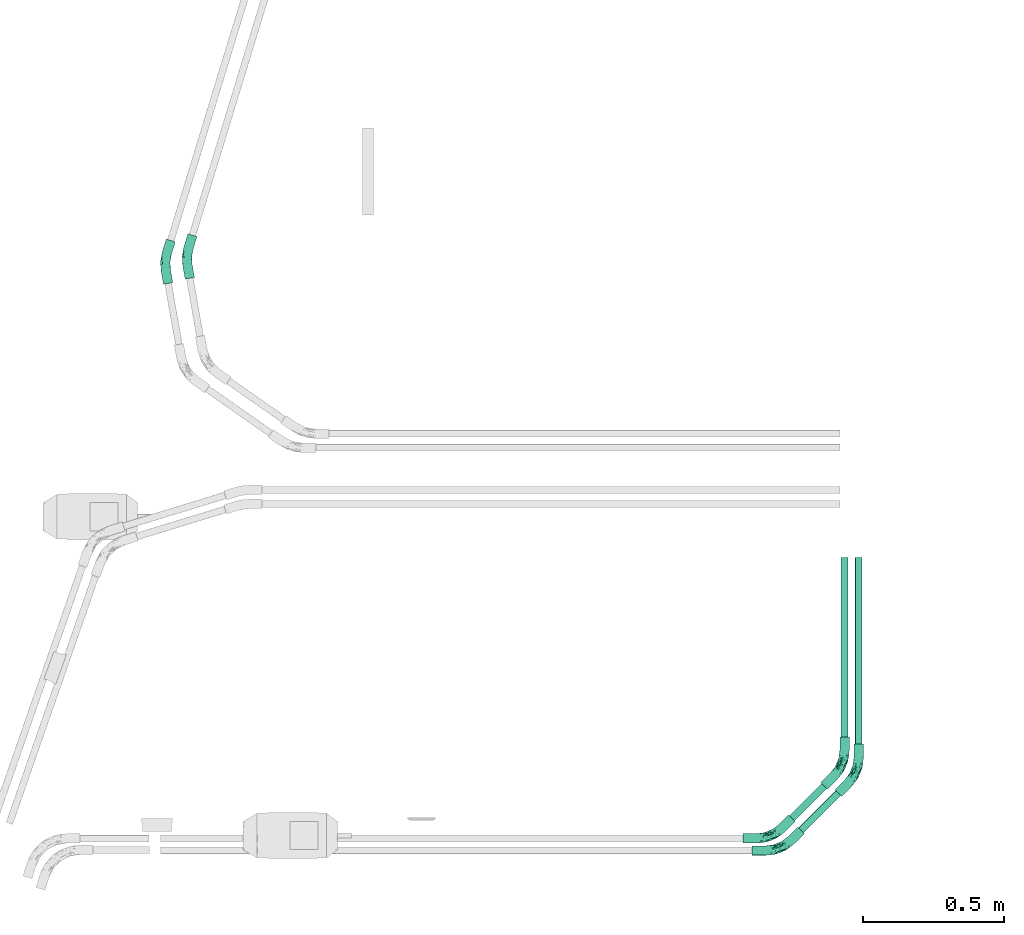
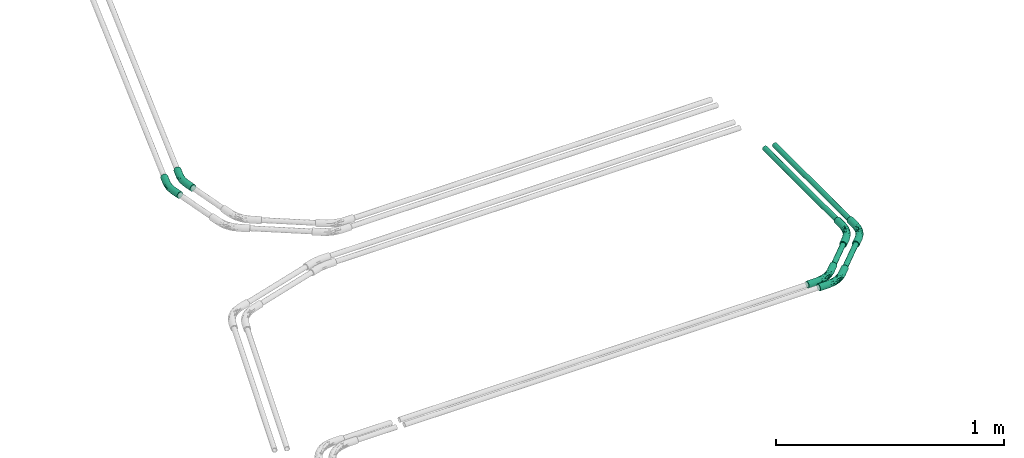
# One storey, part 5 of 22: 6 flow fittings, 4 flow segments.
"""IFC2X3 building model written with IfcOpenShell, lengths in millimetres."""

from ifc_helpers import new_model, entity, si_unit, converted_unit, derived_unit, direction, frame, origin_with_axes, origin_2d_with_axis, place, context, subcontext, project, spatial, hollow_circle, extrude, open_shell, surface_model, source, transform, mapped, type_object, element, save


model = new_model("IFC2X3")

# Units and contexts
model_context = context("Model", 3, precision=0.01, world=frame((0.0, 4.29681676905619e-09, 0.0)), true_north=direction((4.01073788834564e-13, 1.0)))
plan_context = context("Plan", 3, precision=0.01, world=frame((0.0, 4.29681676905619e-09, 0.0)), true_north=direction((4.01073788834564e-13, 1.0)))
body_context = subcontext(model_context, "Body", "Model", "MODEL_VIEW")
ifc_project = project(units=[converted_unit("PLANEANGLEUNIT", "DEGREE", entity("IfcPositiveLengthMeasure", 0.0174532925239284), si_unit("PLANEANGLEUNIT", "RADIAN"), dimensions=[0, 0, 0, 0, 0, 0, 0]), si_unit("AREAUNIT", "SQUARE_METRE"), si_unit("LENGTHUNIT", "METRE", prefix="MILLI"), si_unit("MASSUNIT", "GRAM", prefix="KILO"), si_unit("POWERUNIT", "WATT"), si_unit("PRESSUREUNIT", "PASCAL", prefix="KILO"), si_unit("FORCEUNIT", "NEWTON", prefix="KILO"), si_unit("ELECTRICVOLTAGEUNIT", "VOLT"), si_unit("ELECTRICCURRENTUNIT", "AMPERE"), si_unit("THERMODYNAMICTEMPERATUREUNIT", "DEGREE_CELSIUS"), si_unit("TIMEUNIT", "SECOND"), si_unit("VOLUMEUNIT", "CUBIC_METRE"), derived_unit("LINEARVELOCITYUNIT", [(si_unit("LENGTHUNIT", "METRE"), 1), (si_unit("TIMEUNIT", "SECOND"), -1)]), derived_unit("VOLUMETRICFLOWRATEUNIT", [(si_unit("VOLUMEUNIT", "CUBIC_METRE"), 1), (si_unit("TIMEUNIT", "SECOND"), -1)]), derived_unit("THERMALTRANSMITTANCEUNIT", [(si_unit("POWERUNIT", "WATT"), 1), (si_unit("THERMODYNAMICTEMPERATUREUNIT", "KELVIN"), -1), (si_unit("AREAUNIT", "SQUARE_METRE"), -1)]), derived_unit("SOUNDPRESSUREUNIT", [(si_unit("PRESSUREUNIT", "PASCAL"), 1)])], contexts=[model_context, plan_context])

# Site, building, storey
site_placement = place(None, frame((0.0, -4.29681676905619e-09, 0.0), z_axis=(0.0, 0.0, 1.0), x_axis=(1.0, 0.0, 0.0)))
site = spatial("IfcSite", under=ifc_project, at=site_placement, Name="ENGM", CompositionType="ELEMENT")
building_placement = place(site_placement, frame((0.0, 4.29681676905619e-09, 0.0), z_axis=(0.0, 0.0, 1.0), x_axis=(1.0, 0.0, 0.0)))
building = spatial("IfcBuilding", under=site, at=building_placement, Name="TI", CompositionType="ELEMENT")
storey_placement = place(building_placement, frame((0.0, 0.0, 210900.0), z_axis=(0.0, 0.0, 1.0), x_axis=(1.0, 0.0, 0.0)))
storey = spatial("IfcBuildingStorey", under=building, at=storey_placement, Name="Nivå F", CompositionType="ELEMENT", Elevation=210900.0)

# Flow fittings
cable_carrier_fitting_type = type_object("IfcCableCarrierFittingType", Name="Trekkerør, glatt bend", PredefinedType="BEND")
shared_shape_1 = source(origin_with_axes(), body_context, "Body", "SurfaceModel", [
    surface_model("IfcShellBasedSurfaceModel", [(-101.90646, 8.46055, -14.6541), (-101.90646, 4.3795, -16.34452), (-101.90646, 0.0, -16.92109), (-101.90646, 14.6541, -8.46055), (-101.90646, -8.46055, -14.6541), (-101.90646, 11.96502, -11.96502), (-101.90646, -16.92109, 0.0), (-101.90646, -16.34452, 4.3795), (-101.90646, -11.96502, -11.96502), (-101.90646, -14.6541, -8.46055), (-101.90646, -4.3795, -16.34452), (-101.90646, -16.34452, -4.3795), (-101.90646, 16.92109, 0.0), (-101.90646, 16.34452, -4.3795), (-101.90646, 16.34452, 4.3795), (-101.90646, 14.6541, 8.46055), (-101.90646, 8.46055, 14.6541), (-101.90646, 11.96502, 11.96502), (-101.90646, 0.0, 16.92109), (-101.90646, 4.3795, 16.34452), (-101.90646, -11.96502, 11.96502), (-101.90646, -8.46055, 14.6541), (-101.90646, -14.6541, 8.46055), (-101.90646, -4.3795, 16.34452), (-54.58849, -16.92109, 0.0), (-54.58849, -16.34452, 4.3795), (-54.58849, -14.6541, 8.46055), (-54.58849, -11.96502, 11.96502), (-54.58849, -8.46055, 14.6541), (-54.58849, -4.3795, 16.34452), (-54.58849, 0.0, 16.92109), (-54.58849, 4.3795, 16.34452), (-54.58849, 8.46055, 14.6541), (-54.58849, 11.96502, 11.96502), (-54.58849, 14.6541, 8.46055), (-54.58849, 16.34452, 4.3795), (-54.58849, 16.92109, 0.0), (-54.58849, 16.34452, -4.3795), (-54.58849, 14.6541, -8.46055), (-54.58849, 11.96502, -11.96502), (-54.58849, 8.46055, -14.6541), (-54.58849, 4.3795, -16.34452), (-54.58849, 0.0, -16.92109), (-54.58849, -4.3795, -16.34452), (-54.58849, -8.46055, -14.6541), (-54.58849, -11.96502, -11.96502), (-54.58849, -14.6541, -8.46055), (-54.58849, -16.34452, -4.3795), (10.9245, -1.31078, 3.47544), (-13.36235, -10.76027, 3.27049), (-16.09967, -11.85394, 0.0), (41.69667, 35.50312, 16.34452), (38.59989, 38.59989, 16.92109), (22.26214, 21.90343, 16.76352), (-19.66365, -2.12805, 15.57779), (-29.58477, -8.16493, 13.36262), (-20.60685, -9.47816, 10.19127), (-34.07223, 17.39409, 6.62821), (-10.25807, 24.76518, 5.65746), (-29.40446, 19.36118, 3.4046), (-3.22837, 7.79397, 16.74683), (-31.22977, -0.25365, 16.76352), (35.50312, 41.69667, 16.34452), (32.61738, 44.5824, 14.6541), (17.47707, 29.1678, 15.66764), (-16.62388, 19.5721, 10.43045), (-25.92736, 13.63005, 13.4985), (5.09993, 25.84703, 13.50914), (-21.17216, 6.44783, 16.79403), (19.76619, 3.00218, 0.0), (-6.56017, 15.83764, 15.71089), (-32.9829, 8.26659, 15.66764), (19.50033, 6.79523, 10.18462), (48.96191, 28.23788, 8.46055), (47.06044, 30.13935, 11.96502), (-0.14544, 0.35113, 13.28643), (-24.85868, 20.8351, 0.0), (44.5824, 32.61738, 14.6541), (26.69306, 15.14611, 13.36262), (8.9424, 34.00903, 7.47137), (8.93562, 35.31889, 4.60583), (25.73601, 8.11548, 6.36012), (-6.07752, -7.50254, 6.29064), (28.23788, 48.96191, 8.46055), (10.0687, 32.56851, 10.38353), (30.13935, 47.06044, 11.96502), (-30.89964, -14.04008, 5.64535), (16.01237, 12.75836, 15.5789), (12.05401, 20.50658, 16.79305), (50.15722, 27.04257, 4.3795), (50.56491, 26.63487, 0.0), (32.88314, 11.79305, 2.69799), (2.8451, 32.31038, 0.0), (26.63487, 50.56491, 0.0), (27.04257, 50.15722, 4.3795), (-32.9829, 8.26659, -15.66764), (16.55602, 18.09298, -16.75967), (38.59989, 38.59989, -16.92109), (41.69667, 35.50312, -16.34452), (30.13935, 47.06044, -11.96502), (32.61738, 44.5824, -14.6541), (8.69552, 27.97131, -13.4985), (-6.56017, 15.83764, -15.71089), (-21.88281, 14.67041, -13.50914), (-31.29267, 18.65579, -4.60583), (-30.37125, 17.72478, -7.47137), (-10.25807, 24.76517, -5.65746), (-1.59965, 3.86188, -15.54749), (17.63726, 9.2923, -13.33594), (-19.1381, -5.92521, -13.33619), (-2.08471, 25.59442, -10.43045), (-30.14906, 15.90977, -10.38353), (-24.73941, 5.56629, -16.79215), (10.41167, 19.53028, -16.79403), (-18.36618, -11.17146, -6.33871), (-28.92763, -11.20296, -10.21852), (-19.67101, 2.27248, -16.75686), (-22.81878, -13.17372, -3.2081), (17.47707, 29.1678, -15.66764), (-30.36783, -4.42984, -15.59506), (24.60567, 18.34093, -15.59506), (35.50312, 41.69667, -16.34452), (7.10167, 34.48251, -3.4046), (27.04257, 50.15722, -4.3795), (44.5824, 32.61738, -14.6541), (47.06044, 30.13935, -11.96502), (28.23788, 48.96191, -8.46055), (11.79322, 36.39219, -6.62821), (1.03493, -2.49855, -10.11808), (48.96191, 28.23788, -8.46055), (28.37661, 12.53324, -10.21852), (20.88626, 5.08744, -6.33871), (25.45054, 6.82009, -3.2081), (2.19574, -5.30098, -3.30061), (50.15722, 27.04257, -4.3795), (60.50143, 83.61607, -4.3795), (72.05875, 72.05875, -16.92109), (68.96197, 75.15552, -16.34452), (66.07624, 78.04126, -14.6541), (63.5982, 80.51929, -11.96502), (61.69674, 82.42076, -8.46055), (75.15552, 68.96197, -16.34452), (80.51929, 63.5982, -11.96502), (78.04126, 66.07624, -14.6541), (83.61607, 60.50143, -4.3795), (82.42076, 61.69674, -8.46055), (83.61607, 60.50143, 4.3795), (84.02377, 60.09373, 0.0), (75.15552, 68.96197, 16.34452), (60.50143, 83.61607, 4.3795), (61.69674, 82.42076, 8.46055), (66.07624, 78.04126, 14.6541), (72.05875, 72.05875, 16.92109), (63.5982, 80.51929, 11.96502), (68.96197, 75.15552, 16.34452), (80.51929, 63.5982, 11.96502), (82.42076, 61.69674, 8.46055), (78.04126, 66.07624, 14.6541), (60.09373, 84.02377, 0.0)], [open_shell([[[0, 1, 2]], [[3, 0, 2]], [[4, 3, 2]], [[5, 0, 3]], [[3, 6, 7]], [[8, 9, 4]], [[2, 10, 4]], [[9, 11, 4]], [[11, 3, 4]], [[3, 11, 6]], [[12, 13, 3]], [[12, 7, 14]], [[14, 7, 15]], [[16, 17, 18]], [[15, 18, 17]], [[18, 19, 16]], [[20, 21, 22]], [[15, 7, 22]], [[23, 18, 21]], [[15, 22, 21]], [[15, 21, 18]], [[3, 7, 12]], [[7, 24, 25]], [[26, 22, 25]], [[21, 27, 28]], [[26, 27, 20]], [[23, 28, 29]], [[24, 7, 6]], [[25, 22, 7]], [[26, 20, 22]], [[27, 21, 20]], [[23, 21, 28]], [[29, 18, 23]], [[29, 30, 18]], [[16, 31, 32]], [[33, 17, 32]], [[14, 34, 35]], [[33, 34, 15]], [[12, 35, 36]], [[31, 19, 30]], [[31, 16, 19]], [[30, 19, 18]], [[32, 17, 16]], [[33, 15, 17]], [[14, 15, 34]], [[35, 12, 14]], [[13, 36, 37]], [[38, 3, 37]], [[0, 39, 40]], [[38, 39, 5]], [[1, 40, 41]], [[36, 13, 12]], [[37, 3, 13]], [[38, 5, 3]], [[39, 0, 5]], [[1, 0, 40]], [[41, 2, 1]], [[41, 42, 2]], [[4, 43, 44]], [[45, 8, 44]], [[11, 46, 47]], [[45, 46, 9]], [[6, 47, 24]], [[43, 10, 42]], [[43, 4, 10]], [[42, 10, 2]], [[44, 8, 4]], [[45, 9, 8]], [[11, 9, 46]], [[47, 6, 11]], [[48, 49, 50]], [[49, 24, 50]], [[51, 52, 53]], [[29, 28, 54]], [[27, 55, 28]], [[56, 27, 26]], [[57, 58, 59]], [[60, 61, 54]], [[61, 30, 29]], [[62, 63, 64]], [[65, 66, 67]], [[31, 30, 68]], [[48, 50, 69]], [[67, 66, 70]], [[33, 32, 66]], [[65, 58, 57]], [[71, 32, 31]], [[72, 73, 74]], [[56, 72, 75]], [[59, 76, 36]], [[74, 77, 78]], [[36, 35, 59]], [[58, 79, 80]], [[81, 72, 82]], [[70, 71, 68]], [[83, 84, 85]], [[25, 49, 86]], [[34, 33, 65]], [[87, 77, 51]], [[54, 87, 60]], [[72, 56, 82]], [[88, 70, 68]], [[72, 81, 73]], [[73, 81, 89]], [[88, 62, 64]], [[78, 72, 74]], [[60, 88, 68]], [[90, 89, 91]], [[48, 81, 82]], [[55, 56, 75]], [[84, 67, 85]], [[59, 92, 76]], [[26, 86, 56]], [[92, 80, 93]], [[75, 78, 87]], [[80, 79, 94]], [[87, 51, 53]], [[70, 64, 67]], [[61, 68, 30]], [[65, 84, 79]], [[60, 53, 88]], [[67, 63, 85]], [[88, 52, 62]], [[65, 33, 66]], [[75, 87, 54]], [[91, 81, 48]], [[66, 32, 71]], [[55, 54, 28]], [[79, 84, 83]], [[67, 84, 65]], [[56, 55, 27]], [[54, 55, 75]], [[87, 78, 77]], [[72, 78, 75]], [[94, 79, 83]], [[65, 79, 58]], [[93, 80, 94]], [[92, 58, 80]], [[54, 61, 29]], [[68, 61, 60]], [[88, 53, 52]], [[87, 53, 60]], [[48, 82, 49]], [[91, 48, 69]], [[90, 91, 69]], [[81, 91, 89]], [[86, 49, 82]], [[24, 49, 25]], [[56, 86, 82]], [[26, 25, 86]], [[68, 71, 31]], [[66, 71, 70]], [[67, 64, 63]], [[88, 64, 70]], [[57, 35, 34]], [[92, 59, 58]], [[35, 57, 59]], [[65, 57, 34]], [[40, 95, 41]], [[96, 97, 98]], [[99, 100, 101]], [[102, 95, 103]], [[76, 104, 36]], [[104, 105, 37]], [[104, 106, 105]], [[107, 108, 109]], [[105, 110, 111]], [[40, 39, 103]], [[110, 99, 101]], [[112, 102, 113]], [[114, 46, 115]], [[116, 113, 96]], [[24, 47, 117]], [[110, 101, 103]], [[114, 47, 46]], [[101, 100, 118]], [[119, 44, 43]], [[112, 41, 95]], [[46, 45, 115]], [[45, 44, 109]], [[107, 119, 116]], [[113, 116, 112]], [[96, 98, 120]], [[113, 121, 97]], [[122, 76, 92]], [[112, 116, 42]], [[93, 123, 122]], [[124, 125, 108]], [[43, 42, 116]], [[110, 126, 99]], [[102, 103, 101]], [[106, 122, 127]], [[100, 121, 118]], [[128, 115, 109]], [[109, 44, 119]], [[127, 110, 106]], [[128, 109, 108]], [[113, 102, 118]], [[120, 98, 124]], [[113, 97, 96]], [[129, 130, 125]], [[107, 120, 108]], [[42, 41, 112]], [[107, 116, 96]], [[128, 130, 131]], [[128, 131, 114]], [[69, 132, 90]], [[69, 133, 132]], [[50, 117, 133]], [[133, 117, 114]], [[133, 69, 50]], [[129, 134, 131]], [[130, 108, 125]], [[122, 92, 93]], [[111, 103, 39]], [[38, 111, 39]], [[105, 111, 38]], [[103, 111, 110]], [[109, 115, 45]], [[114, 115, 128]], [[131, 130, 129]], [[108, 130, 128]], [[37, 105, 38]], [[110, 105, 106]], [[36, 104, 37]], [[76, 106, 104]], [[116, 119, 43]], [[109, 119, 107]], [[108, 120, 124]], [[96, 120, 107]], [[114, 131, 133]], [[132, 133, 131]], [[103, 95, 40]], [[112, 95, 102]], [[113, 118, 121]], [[101, 118, 102]], [[24, 117, 50]], [[47, 114, 117]], [[131, 134, 132]], [[90, 132, 134]], [[127, 123, 126]], [[76, 122, 106]], [[123, 127, 122]], [[110, 127, 126]], [[135, 136, 137]], [[135, 137, 138]], [[139, 140, 135]], [[139, 135, 138]], [[136, 135, 141]], [[141, 142, 143]], [[142, 141, 144]], [[142, 144, 145]], [[141, 135, 144]], [[144, 146, 147]], [[144, 135, 148]], [[135, 149, 150]], [[150, 151, 135]], [[151, 152, 135]], [[151, 150, 153]], [[151, 154, 152]], [[146, 155, 156]], [[155, 146, 157]], [[146, 148, 157]], [[146, 144, 148]], [[152, 148, 135]], [[149, 135, 158]], [[89, 147, 146]], [[156, 73, 146]], [[77, 155, 157]], [[156, 155, 74]], [[51, 157, 148]], [[147, 89, 90]], [[146, 73, 89]], [[156, 74, 73]], [[155, 77, 74]], [[51, 77, 157]], [[148, 52, 51]], [[148, 152, 52]], [[63, 154, 151]], [[153, 85, 151]], [[94, 150, 149]], [[153, 150, 83]], [[93, 149, 158]], [[154, 62, 152]], [[154, 63, 62]], [[152, 62, 52]], [[151, 85, 63]], [[153, 83, 85]], [[94, 83, 150]], [[149, 93, 94]], [[93, 158, 135]], [[140, 123, 135]], [[138, 137, 121]], [[139, 138, 99]], [[126, 140, 139]], [[140, 126, 123]], [[123, 93, 135]], [[99, 138, 100]], [[100, 138, 121]], [[137, 97, 121]], [[99, 126, 139]], [[137, 136, 97]], [[124, 141, 143]], [[142, 125, 143]], [[134, 145, 144]], [[142, 145, 129]], [[90, 144, 147]], [[141, 98, 136]], [[141, 124, 98]], [[136, 98, 97]], [[143, 125, 124]], [[142, 129, 125]], [[134, 129, 145]], [[144, 90, 134]]])]),
])
for number, where, z_axis, x_axis, name in (
    (1, (585495.01595, 570088.92604, -56.7999999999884), (0.0, 0.0, 1.0), (0.707106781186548, 0.707106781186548, 0.0), "Trekkerør, glatt bend"),
    (2, (585217.8197, 569811.72978, -56.7999999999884), (0.0, 0.0, 1.0), (1.0, 0.0, 0.0), "Trekkerør, glatt bend"),
    (3, (585444.76151, 570114.38019, -56.7999999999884), (0.0, 0.0, 1.0), (0.707106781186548, 0.707106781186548, 0.0), "Trekkerør, glatt bend"),
    (4, (585185.38132, 569855.0, -56.7999999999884), (0.0, 0.0, 1.0), (1.0, 0.0, 0.0), "Trekkerør, glatt bend"),
):
    element("IfcFlowFitting", number, at=place(storey_placement, frame(where, z_axis=z_axis, x_axis=x_axis)), inside=storey, type_object=cable_carrier_fitting_type, Name=name, context=body_context, shape_type="MappedRepresentation", body=[
        mapped(shared_shape_1, transform((0.0, 0.0, 0.0), scale=1.0)),
    ])
shared_shape_2 = source(origin_with_axes(), body_context, "Body", "SurfaceModel", [
    surface_model("IfcShellBasedSurfaceModel", [(-78.95754, 8.46055, -14.6541), (-78.95754, 4.3795, -16.34452), (-78.95754, 0.0, -16.92109), (-78.95754, 14.6541, -8.46055), (-78.95754, -8.46055, -14.6541), (-78.95754, 11.96502, -11.96502), (-78.95754, -16.92109, 0.0), (-78.95754, -16.34452, 4.3795), (-78.95754, -11.96502, -11.96502), (-78.95754, -14.6541, -8.46055), (-78.95754, -4.3795, -16.34452), (-78.95754, -16.34452, -4.3795), (-78.95754, 16.92109, 0.0), (-78.95754, 16.34452, -4.3795), (-78.95754, 16.34452, 4.3795), (-78.95754, 14.6541, 8.46055), (-78.95754, 8.46055, 14.6541), (-78.95754, 11.96502, 11.96502), (-78.95754, 0.0, 16.92109), (-78.95754, 4.3795, 16.34452), (-78.95754, -11.96502, 11.96502), (-78.95754, -8.46055, 14.6541), (-78.95754, -14.6541, 8.46055), (-78.95754, -4.3795, 16.34452), (-31.63957, -16.92109, 0.0), (-31.63957, -16.34452, 4.3795), (-31.63957, -14.6541, 8.46055), (-31.63957, -11.96502, 11.96502), (-31.63957, -8.46055, 14.6541), (-31.63957, -4.3795, 16.34452), (-31.63957, 0.0, 16.92109), (-31.63957, 4.3795, 16.34452), (-31.63957, 8.46055, 14.6541), (-31.63957, 11.96502, 11.96502), (-31.63957, 14.6541, 8.46055), (-31.63957, 16.34452, 4.3795), (-31.63957, 16.92109, 0.0), (-31.63957, 16.34452, -4.3795), (-31.63957, 14.6541, -8.46055), (-31.63957, 11.96502, -11.96502), (-31.63957, 8.46055, -14.6541), (-31.63957, 4.3795, -16.34452), (-31.63957, 0.0, -16.92109), (-31.63957, -4.3795, -16.34452), (-31.63957, -8.46055, -14.6541), (-31.63957, -11.96502, -11.96502), (-31.63957, -14.6541, -8.46055), (-31.63957, -16.34452, -4.3795), (1.54545, -6.43726, 13.37501), (-1.10332, -10.22349, 10.24195), (35.61132, -0.19901, 4.3795), (34.84388, 1.30717, 8.46055), (2.78273, -11.59092, 6.39757), (-1.45897, -3.21124, 15.60459), (-0.34065, 1.4189, 16.76603), (-2.18473, 5.5255, 16.78582), (-2.36982, 9.871, 15.66134), (30.17931, 10.4619, 16.34452), (28.19106, 14.36406, 16.92109), (33.62307, 3.70315, 11.96502), (32.03207, 6.82566, 14.6541), (-3.99795, 16.65265, 10.35717), (-3.26542, 13.60146, 13.46853), (-4.51744, 18.81648, 6.53948), (-2.07775, 20.44675, 3.33516), (-5.77387, -14.33246, 3.25985), (3.07595, -12.81224, 0.0), (26.20281, 18.26623, 16.34452), (24.35005, 21.90246, 14.6541), (-4.82435, 20.09488, 0.0), (35.87308, -0.71274, 0.0), (20.7708, 28.92714, 4.3795), (20.50905, 29.44087, 0.0), (22.75906, 25.02497, 11.96502), (21.53824, 27.42096, 8.46055), (-0.34065, 1.4189, -16.76603), (-7.43134, 19.16146, -3.33516), (-0.56192, 5.9151, -16.78582), (-4.51744, 18.81648, -6.53948), (11.65136, -10.14903, -3.25985), (2.78273, -11.59092, -6.39757), (35.61132, -0.19901, -4.3795), (-3.26542, 13.60146, -13.46853), (30.17931, 10.4619, -16.34452), (32.03207, 6.82566, -14.6541), (2.75782, -2.19888, -15.60459), (-2.36982, 9.871, -15.66134), (-3.99795, 16.65265, -10.35717), (21.53824, 27.42096, -8.46055), (1.54545, -6.43726, -13.37501), (5.62444, -8.6083, -10.24195), (20.7708, 28.92714, -4.3795), (22.75906, 25.02497, -11.96502), (24.35005, 21.90246, -14.6541), (33.62307, 3.70315, -11.96502), (34.84388, 1.30717, -8.46055), (26.20281, 18.26623, -16.34452), (28.19106, 14.36406, -16.92109), (68.36343, 39.74814, -16.34452), (72.33993, 31.94381, -16.34452), (70.35168, 35.84597, -16.92109), (63.69886, 48.90287, -8.46055), (66.51067, 43.38437, -14.6541), (64.91967, 46.50688, -11.96502), (77.0045, 22.78908, 8.46055), (77.77193, 21.2829, -4.3795), (75.78368, 25.18506, -11.96502), (74.19269, 28.30757, -14.6541), (77.0045, 22.78908, -8.46055), (78.0337, 20.76917, 0.0), (62.93142, 50.40905, -4.3795), (62.93142, 50.40905, 4.3795), (63.69886, 48.90287, 8.46055), (66.51067, 43.38437, 14.6541), (68.36343, 39.74814, 16.34452), (64.91967, 46.50688, 11.96502), (70.35168, 35.84597, 16.92109), (74.19269, 28.30757, 14.6541), (75.78368, 25.18506, 11.96502), (77.77193, 21.2829, 4.3795), (72.33993, 31.94381, 16.34452), (62.66966, 50.92278, 0.0)], [open_shell([[[0, 1, 2]], [[3, 0, 2]], [[4, 3, 2]], [[5, 0, 3]], [[3, 6, 7]], [[8, 9, 4]], [[2, 10, 4]], [[9, 11, 4]], [[11, 3, 4]], [[3, 11, 6]], [[12, 13, 3]], [[12, 7, 14]], [[14, 7, 15]], [[16, 17, 18]], [[15, 18, 17]], [[18, 19, 16]], [[20, 21, 22]], [[15, 7, 22]], [[23, 18, 21]], [[15, 22, 21]], [[15, 21, 18]], [[3, 7, 12]], [[7, 24, 25]], [[26, 22, 25]], [[21, 27, 28]], [[26, 27, 20]], [[23, 28, 29]], [[24, 7, 6]], [[25, 22, 7]], [[26, 20, 22]], [[27, 21, 20]], [[23, 21, 28]], [[29, 18, 23]], [[29, 30, 18]], [[16, 31, 32]], [[33, 17, 32]], [[14, 34, 35]], [[33, 34, 15]], [[12, 35, 36]], [[31, 19, 30]], [[31, 16, 19]], [[30, 19, 18]], [[32, 17, 16]], [[33, 15, 17]], [[14, 15, 34]], [[35, 12, 14]], [[13, 36, 37]], [[38, 3, 37]], [[0, 39, 40]], [[38, 39, 5]], [[1, 40, 41]], [[36, 13, 12]], [[37, 3, 13]], [[38, 5, 3]], [[39, 0, 5]], [[1, 0, 40]], [[41, 2, 1]], [[41, 42, 2]], [[4, 43, 44]], [[45, 8, 44]], [[11, 46, 47]], [[45, 46, 9]], [[6, 47, 24]], [[43, 10, 42]], [[43, 4, 10]], [[42, 10, 2]], [[44, 8, 4]], [[45, 9, 8]], [[11, 9, 46]], [[47, 6, 11]], [[48, 27, 49]], [[28, 27, 48]], [[27, 26, 49]], [[50, 51, 52]], [[29, 28, 53]], [[53, 54, 29]], [[31, 30, 55]], [[30, 29, 54]], [[56, 31, 55]], [[57, 58, 54]], [[52, 26, 25]], [[59, 60, 48]], [[33, 61, 34]], [[62, 33, 32]], [[51, 49, 52]], [[26, 52, 49]], [[60, 53, 48]], [[63, 64, 35]], [[65, 52, 25]], [[36, 35, 64]], [[35, 34, 63]], [[30, 54, 55]], [[32, 31, 56]], [[28, 48, 53]], [[24, 66, 65]], [[67, 68, 56]], [[53, 60, 57]], [[54, 53, 57]], [[64, 69, 36]], [[55, 67, 56]], [[59, 48, 49]], [[50, 65, 66]], [[59, 49, 51]], [[66, 70, 50]], [[24, 65, 25]], [[64, 63, 71]], [[69, 64, 72]], [[68, 73, 62]], [[56, 62, 32]], [[74, 71, 63]], [[56, 68, 62]], [[73, 74, 61]], [[73, 61, 62]], [[61, 63, 34]], [[61, 74, 63]], [[58, 67, 55]], [[62, 61, 33]], [[72, 64, 71]], [[50, 52, 65]], [[58, 55, 54]], [[43, 42, 75]], [[76, 69, 72]], [[36, 76, 37]], [[77, 42, 41]], [[78, 38, 37]], [[79, 80, 81]], [[39, 82, 40]], [[83, 84, 85]], [[41, 40, 86]], [[78, 37, 76]], [[87, 78, 88]], [[38, 87, 39]], [[66, 24, 47]], [[47, 80, 79]], [[89, 45, 44]], [[47, 79, 66]], [[47, 46, 80]], [[46, 45, 90]], [[43, 85, 44]], [[43, 75, 85]], [[36, 69, 76]], [[70, 79, 81]], [[72, 91, 76]], [[41, 86, 77]], [[45, 89, 90]], [[88, 78, 91]], [[82, 92, 93]], [[94, 95, 90]], [[93, 96, 86]], [[82, 39, 87]], [[86, 82, 93]], [[92, 87, 88]], [[87, 38, 78]], [[86, 96, 77]], [[83, 85, 75]], [[97, 75, 77]], [[44, 85, 89]], [[89, 84, 94]], [[95, 81, 80]], [[46, 90, 80]], [[70, 66, 79]], [[96, 97, 77]], [[95, 80, 90]], [[94, 90, 89]], [[84, 89, 85]], [[83, 75, 97]], [[42, 77, 75]], [[91, 78, 76]], [[82, 87, 92]], [[86, 40, 82]], [[98, 99, 100]], [[101, 98, 102]], [[99, 98, 101]], [[101, 102, 103]], [[101, 104, 105]], [[99, 106, 107]], [[106, 99, 105]], [[106, 105, 108]], [[99, 101, 105]], [[105, 104, 109]], [[101, 110, 111]], [[111, 112, 101]], [[101, 112, 104]], [[113, 114, 112]], [[113, 112, 115]], [[116, 112, 114]], [[104, 117, 118]], [[119, 109, 104]], [[117, 116, 120]], [[116, 117, 104]], [[112, 116, 104]], [[121, 111, 110]], [[50, 109, 119]], [[104, 51, 119]], [[60, 118, 117]], [[104, 118, 59]], [[57, 117, 120]], [[109, 50, 70]], [[119, 51, 50]], [[104, 59, 51]], [[118, 60, 59]], [[57, 60, 117]], [[120, 58, 57]], [[120, 116, 58]], [[68, 114, 113]], [[115, 73, 113]], [[71, 112, 111]], [[115, 112, 74]], [[72, 111, 121]], [[114, 67, 116]], [[114, 68, 67]], [[116, 67, 58]], [[113, 73, 68]], [[115, 74, 73]], [[71, 74, 112]], [[111, 72, 71]], [[72, 121, 110]], [[101, 91, 110]], [[102, 98, 96]], [[103, 102, 92]], [[88, 101, 103]], [[101, 88, 91]], [[91, 72, 110]], [[92, 102, 93]], [[93, 102, 96]], [[98, 97, 96]], [[92, 88, 103]], [[98, 100, 97]], [[84, 99, 107]], [[106, 94, 107]], [[81, 108, 105]], [[106, 108, 95]], [[70, 105, 109]], [[99, 83, 100]], [[99, 84, 83]], [[100, 83, 97]], [[107, 94, 84]], [[106, 95, 94]], [[81, 95, 108]], [[105, 70, 81]]])]),
])
for number, where, z_axis, x_axis, name in (
    (5, (583025.44349, 571906.39552, -56.7999999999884), (0.0, 0.0, 1.0), (-0.292371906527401, -0.956304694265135, 0.0), "Trekkerør, glatt bend"),
    (6, (583102.52195, 571925.00188, -56.7999999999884), (0.0, 0.0, 1.0), (-0.292371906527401, -0.956304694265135, 0.0), "Trekkerør, glatt bend"),
):
    element("IfcFlowFitting", number, at=place(storey_placement, frame(where, z_axis=z_axis, x_axis=x_axis)), inside=storey, type_object=cable_carrier_fitting_type, Name=name, context=body_context, shape_type="MappedRepresentation", body=[
        mapped(shared_shape_2, transform((0.0, 0.0, 0.0), scale=1.0)),
    ])

# Flow segments
cable_carrier_segment_type = type_object("IfcCableCarrierSegmentType", Name="Trekkerør, korrugert", PredefinedType="CONDUITSEGMENT")
shared_shape_3 = source(origin_with_axes(), body_context, "Body", "SweptSolid", [
    extrude(hollow_circle(Radius=12.5, WallThickness=2.0, at=origin_2d_with_axis()), frame((0.0, 0.0, 0.0), z_axis=(1.0, 0.0, 0.0), x_axis=(0.0, 1.0, 0.0)), (0.0, 0.0, 1.0), 663.5),
])
flow_segment_1_placement = place(storey_placement, frame((585495.01595, 570190.8325, -56.7999999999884), z_axis=(0.0, 0.0, 1.0), x_axis=(0.0, 1.0, 0.0)))
element("IfcFlowSegment", 7, at=flow_segment_1_placement, inside=storey, type_object=cable_carrier_segment_type, Name="Trekkerør, korrugert", context=body_context, shape_type="MappedRepresentation", body=[
    mapped(shared_shape_3, transform((0.0, 0.0, 0.0), scale=1.0)),
])
shared_shape_4 = source(origin_with_axes(), body_context, "Body", "SweptSolid", [
    extrude(hollow_circle(Radius=12.5, WallThickness=2.0, at=origin_2d_with_axis()), frame((0.0, 0.0, 0.0), z_axis=(1.0, 0.0, 0.0), x_axis=(0.0, 1.0, 0.0)), (0.0, 0.0, 1.0), 188.2),
])
flow_segment_2_placement = place(storey_placement, frame((585422.9572, 570016.86729, -56.7999999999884), z_axis=(0.0, 0.0, 1.0), x_axis=(-0.707106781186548, -0.707106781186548, 0.0)))
element("IfcFlowSegment", 8, at=flow_segment_2_placement, inside=storey, type_object=cable_carrier_segment_type, Name="Trekkerør, korrugert", context=body_context, shape_type="MappedRepresentation", body=[
    mapped(shared_shape_4, transform((0.0, 0.0, 0.0), scale=1.0)),
])
shared_shape_5 = source(origin_with_axes(), body_context, "Body", "SweptSolid", [
    extrude(hollow_circle(Radius=12.5, WallThickness=2.0, at=origin_2d_with_axis()), frame((0.0, 0.0, 0.0), z_axis=(1.0, 0.0, 0.0), x_axis=(0.0, 1.0, 0.0)), (0.0, 0.0, 1.0), 638.1),
])
flow_segment_3_placement = place(storey_placement, frame((585444.76151, 570216.28666, -56.7999999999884), z_axis=(0.0, 0.0, 1.0), x_axis=(0.0, 1.0, 0.0)))
element("IfcFlowSegment", 9, at=flow_segment_3_placement, inside=storey, type_object=cable_carrier_segment_type, Name="Trekkerør, korrugert", context=body_context, shape_type="MappedRepresentation", body=[
    mapped(shared_shape_5, transform((0.0, 0.0, 0.0), scale=1.0)),
])
shared_shape_6 = source(origin_with_axes(), body_context, "Body", "SweptSolid", [
    extrude(hollow_circle(Radius=12.5, WallThickness=2.0, at=origin_2d_with_axis()), frame((0.0, 0.0, 0.0), z_axis=(1.0, 0.0, 0.0), x_axis=(0.0, 1.0, 0.0)), (0.0, 0.0, 1.0), 163.0),
])
flow_segment_4_placement = place(storey_placement, frame((585372.70276, 570042.32144, -56.7999999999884), z_axis=(0.0, 0.0, 1.0), x_axis=(-0.707106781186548, -0.707106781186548, 0.0)))
element("IfcFlowSegment", 10, at=flow_segment_4_placement, inside=storey, type_object=cable_carrier_segment_type, Name="Trekkerør, korrugert", context=body_context, shape_type="MappedRepresentation", body=[
    mapped(shared_shape_6, transform((0.0, 0.0, 0.0), scale=1.0)),
])

save(model, "model.ifc")
